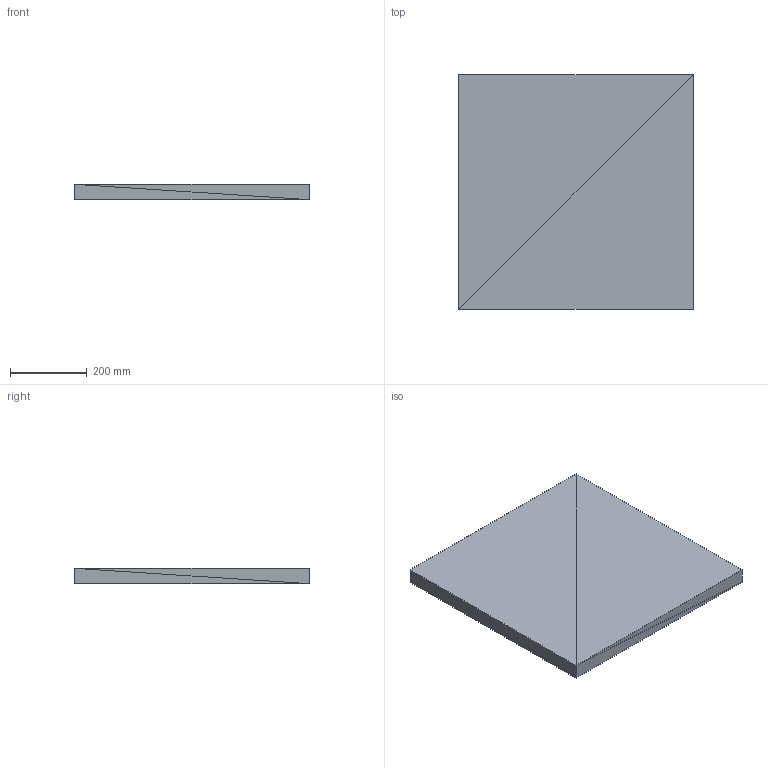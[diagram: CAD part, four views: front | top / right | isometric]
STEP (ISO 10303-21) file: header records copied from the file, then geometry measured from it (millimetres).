
FILE_DESCRIPTION(('ISINAC STEP AP214'),'2;1');
FILE_NAME('ISINAC_C.610_40mm_ADHESIVO','2026-05-03T10:49:19',('ISINAC'),('www.isinac.com'),'ISINAC BIM Generator 1.0','','');
FILE_SCHEMA(('AUTOMOTIVE_DESIGN'));
Length unit declared in the file: millimetre
Products named in the file (1): ISINAC_C.610_40mm_ADHESIVO
Bounding box: 610 x 610 x 40 mm (x, y, z)
Surface area: 841800 mm2 (no closed solid volume)
Topology: 0 solids, 12 shells, 12 faces, 36 edges, 36 vertices
Faces by surface type: plane 12
Entity records: 145 total; most frequent: CARTESIAN_POINT 48, DIRECTION 24, POLY_LOOP 12, FACE_OUTER_BOUND 12, AXIS2_PLACEMENT_3D 12, PLANE 12, FACE_SURFACE 12, CLOSED_SHELL 1
